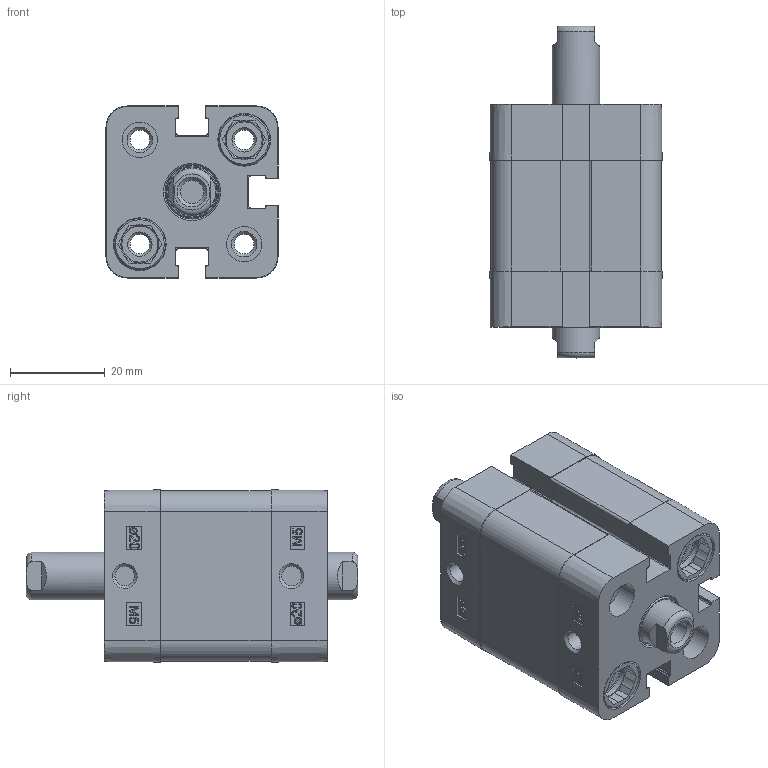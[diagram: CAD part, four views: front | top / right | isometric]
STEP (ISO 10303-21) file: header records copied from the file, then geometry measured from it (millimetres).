
FILE_DESCRIPTION(/* description */ ('Unknown'),/* implementation_level */ '2;1');
FILE_NAME(/* name */ 'ZBN 20_10',/* time_stamp */ '2025-01-27T13:31:22+01:00',/* author */ ('Unknown'),/* organization */ ('HAFNER Pneumatika Kft'),/* preprocessor_version */ 'ST-DEVELOPER v16.7',/* originating_system */ 'Solid Edge',/* authorisation */ 'Unknown');
FILE_SCHEMA (('AUTOMOTIVE_DESIGN {1 0 10303 214 3 1 1}'));
Length unit declared in the file: millimetre
Products named in the file (5): ZBN 20_10; Kit_1; Kit_2; Profilrohr; Kolbenstange
Assembly tree (5 placements, depth 2):
  ZBN 20_10
    Kit_1
    Kit_2
    Profilrohr
    Kolbenstange  x2
Bounding box: 36.3 x 70 x 36.3 mm (x, y, z)
Volume: 47269.7 mm3; surface area: 27518.7 mm2
Topology: 5 solids, 9 shells, 607 faces, 1619 edges, 1070 vertices
Faces by surface type: plane 292, cylinder 157, bspline 86, cone 56, torus 16
Full cylindrical faces by diameter (mm): 4.134 x10, 4.917 x4, 7.5 x4, 7.55 x4, 8 x8, 10 x2, 10.48 x2, 10.9 x4, 11.1 x4, 11.4 x2, 12 x2, 13.84 x2, 14 x2, 20 x3
Entity records: 21902 total; most frequent: CARTESIAN_POINT 4232, ORIENTED_EDGE 2860, DIRECTION 2646, EDGE_CURVE 1430, VERTEX_POINT 999, AXIS2_PLACEMENT_3D 903, LINE 840, VECTOR 840
